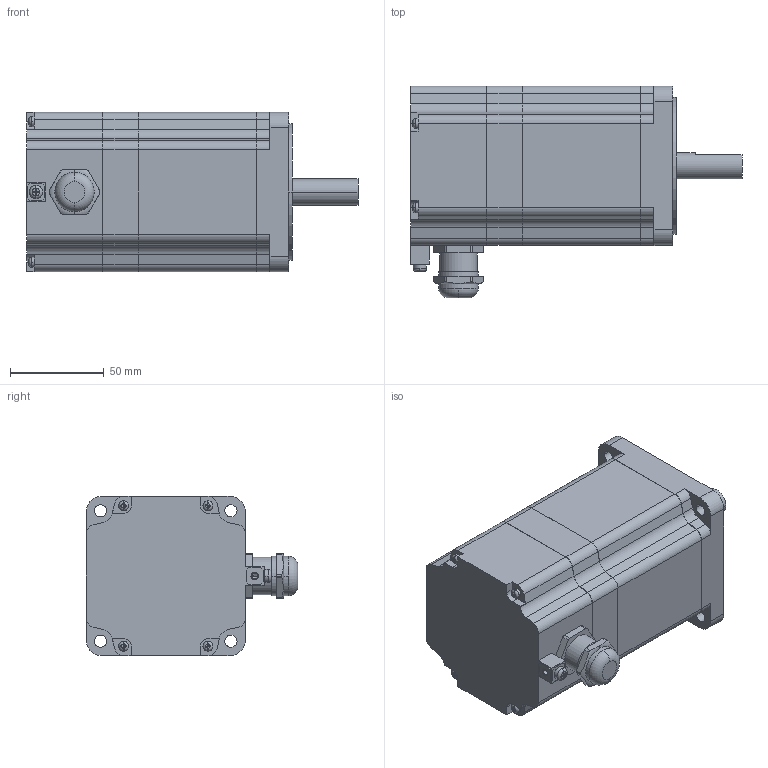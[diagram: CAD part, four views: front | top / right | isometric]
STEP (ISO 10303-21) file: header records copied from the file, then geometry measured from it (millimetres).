
FILE_DESCRIPTION( ( '' ), '1' );
FILE_NAME( 'c:/cad_url_generator/oriental/selction_from_product_tree/stepping_motors/spepping_motors/2_phase_pk_series/pk_series/2p_standard_type/PK299EAT.STEP', '2012-06-14T18:47:50', ( '' ), ( '' ), ' ', ' ', ' ' );
FILE_SCHEMA( ( 'CONFIG_CONTROL_DESIGN' ) );
Length unit declared in the file: millimetre
Products named in the file (1): 1
Bounding box: 177.3 x 113 x 85 mm (x, y, z)
Volume: 923105.5 mm3; surface area: 70184.6 mm2
Topology: 1 solids, 1 shells, 391 faces, 1109 edges, 738 vertices
Faces by surface type: plane 235, cylinder 138, torus 14, cone 4
Entity records: 13168 total; most frequent: CARTESIAN_POINT 2773, ORIENTED_EDGE 2214, DIRECTION 2142, EDGE_CURVE 1107, VERTEX_POINT 738, AXIS2_PLACEMENT_3D 723, LINE 696, VECTOR 696
